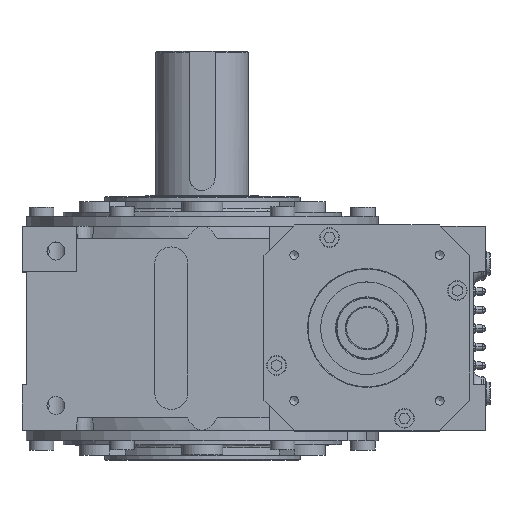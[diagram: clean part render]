
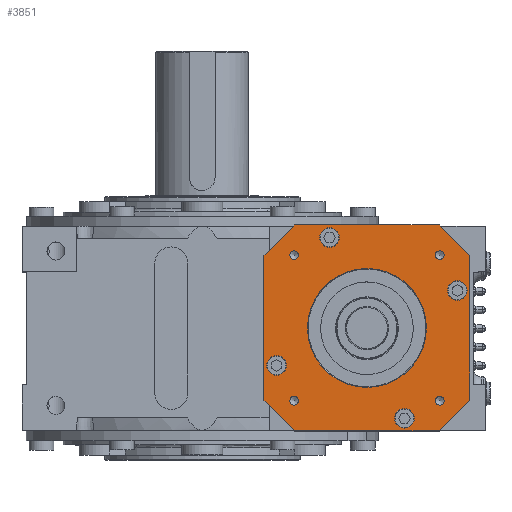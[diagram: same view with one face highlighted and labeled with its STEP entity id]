
A CAD part, top view. The second image highlights one B-rep face of the part: STEP entity #3851.
In plain terms, the highlighted planar face has unit normal (0, 0, 1).
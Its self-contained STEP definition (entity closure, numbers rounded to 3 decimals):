
#3851 = ADVANCED_FACE( '', ( #8073, #8074, #8075, #8076, #8077, #8078, #8079, #8080, #8081, #8082 ), #8083, .T. );
#8073 = FACE_BOUND( '', #18216, .T. );
#8074 = FACE_BOUND( '', #18217, .T. );
#8075 = FACE_BOUND( '', #18218, .T. );
#8076 = FACE_BOUND( '', #18219, .T. );
#8077 = FACE_BOUND( '', #18220, .T. );
#8078 = FACE_BOUND( '', #18221, .T. );
#8079 = FACE_BOUND( '', #18222, .T. );
#8080 = FACE_BOUND( '', #18223, .T. );
#8081 = FACE_BOUND( '', #18224, .T. );
#8082 = FACE_OUTER_BOUND( '', #18225, .T. );
#8083 = PLANE( '', #18226 );
#18216 = EDGE_LOOP( '', ( #30579 ) );
#18217 = EDGE_LOOP( '', ( #30580 ) );
#18218 = EDGE_LOOP( '', ( #30581 ) );
#18219 = EDGE_LOOP( '', ( #30582 ) );
#18220 = EDGE_LOOP( '', ( #30583 ) );
#18221 = EDGE_LOOP( '', ( #30584 ) );
#18222 = EDGE_LOOP( '', ( #30585 ) );
#18223 = EDGE_LOOP( '', ( #30586 ) );
#18224 = EDGE_LOOP( '', ( #30587 ) );
#18225 = EDGE_LOOP( '', ( #30588, #30589, #30590, #30591, #30592, #30593, #30594, #30595 ) );
#18226 = AXIS2_PLACEMENT_3D( '', #30596, #30597, #30598 );
#30579 = ORIENTED_EDGE( '', *, *, #34855, .T. );
#30580 = ORIENTED_EDGE( '', *, *, #34856, .T. );
#30581 = ORIENTED_EDGE( '', *, *, #34857, .T. );
#30582 = ORIENTED_EDGE( '', *, *, #34858, .T. );
#30583 = ORIENTED_EDGE( '', *, *, #34859, .T. );
#30584 = ORIENTED_EDGE( '', *, *, #34860, .T. );
#30585 = ORIENTED_EDGE( '', *, *, #34861, .T. );
#30586 = ORIENTED_EDGE( '', *, *, #34862, .T. );
#30587 = ORIENTED_EDGE( '', *, *, #34863, .T. );
#30588 = ORIENTED_EDGE( '', *, *, #34864, .T. );
#30589 = ORIENTED_EDGE( '', *, *, #34865, .T. );
#30590 = ORIENTED_EDGE( '', *, *, #34866, .T. );
#30591 = ORIENTED_EDGE( '', *, *, #34867, .T. );
#30592 = ORIENTED_EDGE( '', *, *, #34868, .T. );
#30593 = ORIENTED_EDGE( '', *, *, #34869, .T. );
#30594 = ORIENTED_EDGE( '', *, *, #34870, .T. );
#30595 = ORIENTED_EDGE( '', *, *, #34871, .T. );
#30596 = CARTESIAN_POINT( '', ( 0., 57.15, 507. ) );
#30597 = DIRECTION( '', ( 0., 0., 1. ) );
#30598 = DIRECTION( '', ( 1., 0., 0. ) );
#34855 = EDGE_CURVE( '', #41091, #41091, #41092, .F. );
#34856 = EDGE_CURVE( '', #41093, #41093, #41094, .T. );
#34857 = EDGE_CURVE( '', #41095, #41095, #41096, .T. );
#34858 = EDGE_CURVE( '', #41097, #41097, #41098, .T. );
#34859 = EDGE_CURVE( '', #41099, #41099, #41100, .T. );
#34860 = EDGE_CURVE( '', #41101, #41101, #41102, .T. );
#34861 = EDGE_CURVE( '', #41103, #41103, #41104, .T. );
#34862 = EDGE_CURVE( '', #41105, #41105, #41106, .T. );
#34863 = EDGE_CURVE( '', #41107, #41107, #41108, .T. );
#34864 = EDGE_CURVE( '', #41109, #41110, #41111, .T. );
#34865 = EDGE_CURVE( '', #41110, #41112, #41113, .F. );
#34866 = EDGE_CURVE( '', #41112, #41114, #41115, .T. );
#34867 = EDGE_CURVE( '', #41114, #41116, #41117, .F. );
#34868 = EDGE_CURVE( '', #41116, #41118, #41119, .T. );
#34869 = EDGE_CURVE( '', #41118, #41120, #41121, .F. );
#34870 = EDGE_CURVE( '', #41120, #41122, #41123, .T. );
#34871 = EDGE_CURVE( '', #41122, #41109, #41124, .F. );
#41091 = VERTEX_POINT( '', #55024 );
#41092 = CIRCLE( '', #55025, 57.727 );
#41093 = VERTEX_POINT( '', #55026 );
#41094 = CIRCLE( '', #55027, 4.25 );
#41095 = VERTEX_POINT( '', #55028 );
#41096 = CIRCLE( '', #55029, 4.25 );
#41097 = VERTEX_POINT( '', #55030 );
#41098 = CIRCLE( '', #55031, 4.25 );
#41099 = VERTEX_POINT( '', #55032 );
#41100 = CIRCLE( '', #55033, 4.25 );
#41101 = VERTEX_POINT( '', #55034 );
#41102 = CIRCLE( '', #55035, 9.5 );
#41103 = VERTEX_POINT( '', #55036 );
#41104 = CIRCLE( '', #55037, 9.5 );
#41105 = VERTEX_POINT( '', #55038 );
#41106 = CIRCLE( '', #55039, 9.5 );
#41107 = VERTEX_POINT( '', #55040 );
#41108 = CIRCLE( '', #55041, 9.5 );
#41109 = VERTEX_POINT( '', #55042 );
#41110 = VERTEX_POINT( '', #55043 );
#41111 = LINE( '', #55044, #55045 );
#41112 = VERTEX_POINT( '', #55046 );
#41113 = LINE( '', #55047, #55048 );
#41114 = VERTEX_POINT( '', #55049 );
#41115 = LINE( '', #55050, #55051 );
#41116 = VERTEX_POINT( '', #55052 );
#41117 = LINE( '', #55053, #55054 );
#41118 = VERTEX_POINT( '', #55055 );
#41119 = LINE( '', #55056, #55057 );
#41120 = VERTEX_POINT( '', #55058 );
#41121 = LINE( '', #55059, #55060 );
#41122 = VERTEX_POINT( '', #55061 );
#41123 = LINE( '', #55062, #55063 );
#41124 = LINE( '', #55064, #55065 );
#55024 = CARTESIAN_POINT( '', ( 57.727, 0., 507. ) );
#55025 = AXIS2_PLACEMENT_3D( '', #62073, #62074, #62075 );
#55026 = CARTESIAN_POINT( '', ( 70.711, 66.461, 507. ) );
#55027 = AXIS2_PLACEMENT_3D( '', #62076, #62077, #62078 );
#55028 = CARTESIAN_POINT( '', ( 66.461, -70.711, 507. ) );
#55029 = AXIS2_PLACEMENT_3D( '', #62079, #62080, #62081 );
#55030 = CARTESIAN_POINT( '', ( -70.711, -66.461, 507. ) );
#55031 = AXIS2_PLACEMENT_3D( '', #62082, #62083, #62084 );
#55032 = CARTESIAN_POINT( '', ( -66.461, 70.711, 507. ) );
#55033 = AXIS2_PLACEMENT_3D( '', #62085, #62086, #62087 );
#55034 = CARTESIAN_POINT( '', ( -87.769, -45.855, 507. ) );
#55035 = AXIS2_PLACEMENT_3D( '', #62088, #62089, #62090 );
#55036 = CARTESIAN_POINT( '', ( 45.855, -87.769, 507. ) );
#55037 = AXIS2_PLACEMENT_3D( '', #62091, #62092, #62093 );
#55038 = CARTESIAN_POINT( '', ( 87.769, 45.855, 507. ) );
#55039 = AXIS2_PLACEMENT_3D( '', #62094, #62095, #62096 );
#55040 = CARTESIAN_POINT( '', ( -45.855, 87.769, 507. ) );
#55041 = AXIS2_PLACEMENT_3D( '', #62097, #62098, #62099 );
#55042 = CARTESIAN_POINT( '', ( 100., -70., 507. ) );
#55043 = CARTESIAN_POINT( '', ( 100., 70., 507. ) );
#55044 = CARTESIAN_POINT( '', ( 100., -100., 507. ) );
#55045 = VECTOR( '', #62100, 1000. );
#55046 = CARTESIAN_POINT( '', ( 70., 100., 507. ) );
#55047 = CARTESIAN_POINT( '', ( 56.425, 113.575, 507. ) );
#55048 = VECTOR( '', #62101, 1000. );
#55049 = CARTESIAN_POINT( '', ( -70., 100., 507. ) );
#55050 = CARTESIAN_POINT( '', ( 100., 100., 507. ) );
#55051 = VECTOR( '', #62102, 1000. );
#55052 = CARTESIAN_POINT( '', ( -100., 70., 507. ) );
#55053 = CARTESIAN_POINT( '', ( -56.425, 113.575, 507. ) );
#55054 = VECTOR( '', #62103, 1000. );
#55055 = CARTESIAN_POINT( '', ( -100., -70., 507. ) );
#55056 = CARTESIAN_POINT( '', ( -100., 100., 507. ) );
#55057 = VECTOR( '', #62104, 1000. );
#55058 = CARTESIAN_POINT( '', ( -70., -100., 507. ) );
#55059 = CARTESIAN_POINT( '', ( -113.575, -56.425, 507. ) );
#55060 = VECTOR( '', #62105, 1000. );
#55061 = CARTESIAN_POINT( '', ( 70., -100., 507. ) );
#55062 = CARTESIAN_POINT( '', ( -100., -100., 507. ) );
#55063 = VECTOR( '', #62106, 1000. );
#55064 = CARTESIAN_POINT( '', ( 113.575, -56.425, 507. ) );
#55065 = VECTOR( '', #62107, 1000. );
#62073 = CARTESIAN_POINT( '', ( 0., 0., 507. ) );
#62074 = DIRECTION( '', ( 0., 0., 1. ) );
#62075 = DIRECTION( '', ( 1., 0., 0. ) );
#62076 = CARTESIAN_POINT( '', ( 70.711, 70.711, 507. ) );
#62077 = DIRECTION( '', ( 0., 0., -1. ) );
#62078 = DIRECTION( '', ( 0., -1., 0. ) );
#62079 = CARTESIAN_POINT( '', ( 70.711, -70.711, 507. ) );
#62080 = DIRECTION( '', ( 0., 0., -1. ) );
#62081 = DIRECTION( '', ( -1., 0., 0. ) );
#62082 = CARTESIAN_POINT( '', ( -70.711, -70.711, 507. ) );
#62083 = DIRECTION( '', ( 0., 0., -1. ) );
#62084 = DIRECTION( '', ( 0., 1., 0. ) );
#62085 = CARTESIAN_POINT( '', ( -70.711, 70.711, 507. ) );
#62086 = DIRECTION( '', ( 0., 0., -1. ) );
#62087 = DIRECTION( '', ( 1., 0., 0. ) );
#62088 = CARTESIAN_POINT( '', ( -87.769, -36.355, 507. ) );
#62089 = DIRECTION( '', ( 0., 0., -1. ) );
#62090 = DIRECTION( '', ( 0., -1., 0. ) );
#62091 = CARTESIAN_POINT( '', ( 36.355, -87.769, 507. ) );
#62092 = DIRECTION( '', ( 0., 0., -1. ) );
#62093 = DIRECTION( '', ( 1., 0., 0. ) );
#62094 = CARTESIAN_POINT( '', ( 87.769, 36.355, 507. ) );
#62095 = DIRECTION( '', ( 0., 0., -1. ) );
#62096 = DIRECTION( '', ( 0., 1., 0. ) );
#62097 = CARTESIAN_POINT( '', ( -36.355, 87.769, 507. ) );
#62098 = DIRECTION( '', ( 0., 0., -1. ) );
#62099 = DIRECTION( '', ( -1., 0., 0. ) );
#62100 = DIRECTION( '', ( 0., 1., 0. ) );
#62101 = DIRECTION( '', ( 0.707, -0.707, 0. ) );
#62102 = DIRECTION( '', ( -1., 0., 0. ) );
#62103 = DIRECTION( '', ( 0.707, 0.707, 0. ) );
#62104 = DIRECTION( '', ( 0., -1., 0. ) );
#62105 = DIRECTION( '', ( -0.707, 0.707, 0. ) );
#62106 = DIRECTION( '', ( 1., 0., 0. ) );
#62107 = DIRECTION( '', ( -0.707, -0.707, 0. ) );
